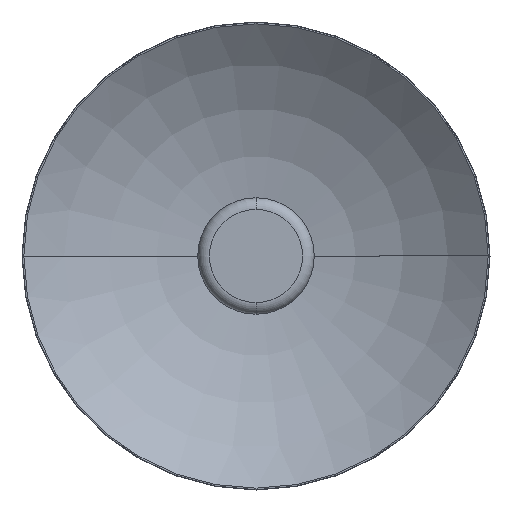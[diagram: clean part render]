
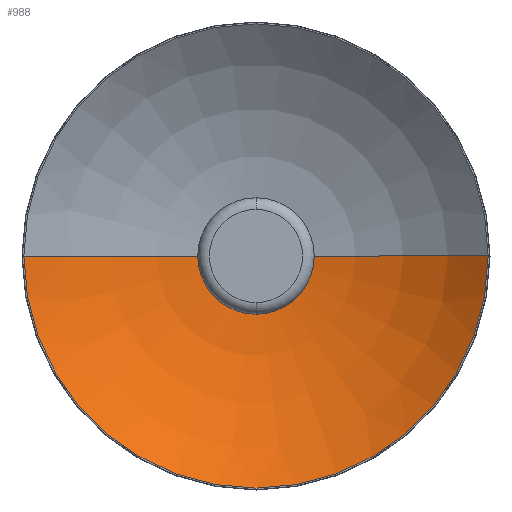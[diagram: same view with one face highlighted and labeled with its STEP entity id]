
A CAD part, front view. The second image highlights one B-rep face of the part: STEP entity #988.
In plain terms, the highlighted toroidal (fillet/blend) face has major radius 24.816 mm and minor radius 265 mm.
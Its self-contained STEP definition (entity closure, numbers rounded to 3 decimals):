
#12 = ORIENTED_EDGE ( 'NONE', *, *, #121, .F. ) ;
#44 = AXIS2_PLACEMENT_3D ( 'NONE', #404, #1345, #1046 ) ;
#66 = DIRECTION ( 'NONE',  ( 1., 0., 0. ) ) ;
#86 = ORIENTED_EDGE ( 'NONE', *, *, #924, .T. ) ;
#110 = EDGE_LOOP ( 'NONE', ( #86, #963, #12 ) ) ;
#121 = EDGE_CURVE ( 'NONE', #435, #482, #949, .T. ) ;
#124 = DIRECTION ( 'NONE',  ( 0., -1., 0. ) ) ;
#131 = CARTESIAN_POINT ( 'NONE',  ( 199.251, -37.343, 0. ) ) ;
#153 = VERTEX_POINT ( 'NONE', #131 ) ;
#222 = CARTESIAN_POINT ( 'NONE',  ( 0., -37.343, 0. ) ) ;
#306 = DIRECTION ( 'NONE',  ( 0., 0., -1. ) ) ;
#348 = EDGE_CURVE ( 'NONE', #153, #482, #459, .T. ) ;
#399 = AXIS2_PLACEMENT_3D ( 'NONE', #222, #124, #66 ) ;
#404 = CARTESIAN_POINT ( 'NONE',  ( 24.816, -236.835, 0. ) ) ;
#435 = VERTEX_POINT ( 'NONE', #563 ) ;
#459 = CIRCLE ( 'NONE', #44, 265. ) ;
#482 = VERTEX_POINT ( 'NONE', #905 ) ;
#499 = CARTESIAN_POINT ( 'NONE',  ( 0., -236.835, 0. ) ) ;
#532 = FACE_OUTER_BOUND ( 'NONE', #110, .T. ) ;
#563 = CARTESIAN_POINT ( 'NONE',  ( -199.251, -37.343, 0. ) ) ;
#600 = DIRECTION ( 'NONE',  ( 0., 1., 0. ) ) ;
#624 = CARTESIAN_POINT ( 'NONE',  ( -24.816, -236.835, 0. ) ) ;
#658 = TOROIDAL_SURFACE ( 'NONE', #1080, 24.816, 265. ) ;
#905 = CARTESIAN_POINT ( 'NONE',  ( 0., 27., 0. ) ) ;
#924 = EDGE_CURVE ( 'NONE', #435, #153, #1300, .T. ) ;
#932 = DIRECTION ( 'NONE',  ( -1., 0., 0. ) ) ;
#949 = CIRCLE ( 'NONE', #1189, 265. ) ;
#963 = ORIENTED_EDGE ( 'NONE', *, *, #348, .T. ) ;
#988 = ADVANCED_FACE ( 'NONE', ( #532 ), #658, .F. ) ;
#1046 = DIRECTION ( 'NONE',  ( 1., 0., 0. ) ) ;
#1080 = AXIS2_PLACEMENT_3D ( 'NONE', #499, #600, #932 ) ;
#1189 = AXIS2_PLACEMENT_3D ( 'NONE', #624, #306, #1357 ) ;
#1300 = CIRCLE ( 'NONE', #399, 199.251 ) ;
#1345 = DIRECTION ( 'NONE',  ( 0., 0., 1. ) ) ;
#1357 = DIRECTION ( 'NONE',  ( -1., 0., 0. ) ) ;
